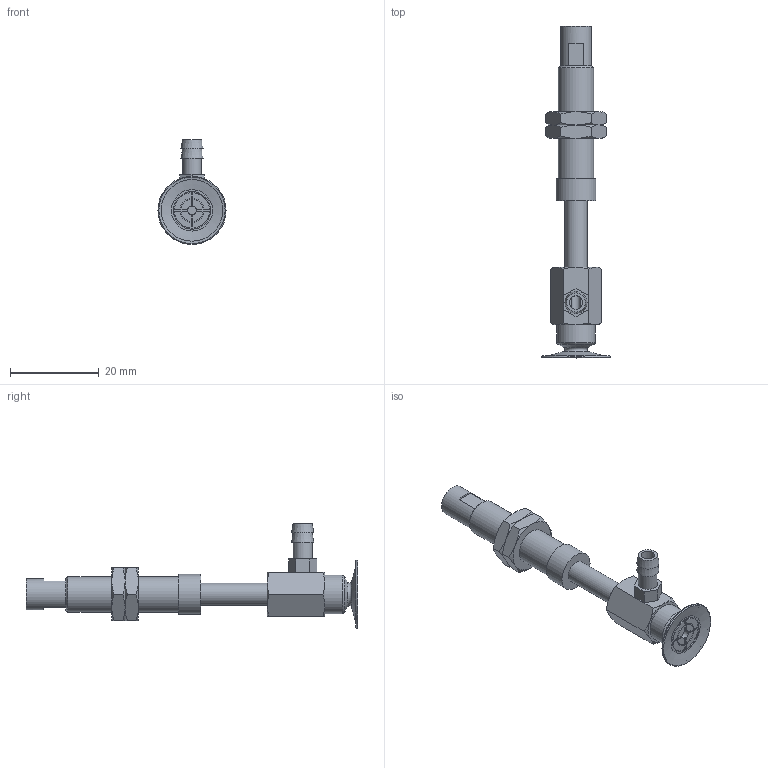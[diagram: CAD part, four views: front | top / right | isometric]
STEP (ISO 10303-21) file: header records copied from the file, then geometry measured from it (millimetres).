
FILE_DESCRIPTION(('STEP AP203'),'1');
FILE_NAME('-T.stp','2025-02-14T07:02:44',(' '),(' '),'Spatial InterOp 3D',' ',' ');
FILE_SCHEMA(('CONFIG_CONTROL_DESIGN'));
Length unit declared in the file: millimetre
Products named in the file (7): BNABPAYS-15B-15-※-T; NAPAYS-10A-15--M; NAPAYS-10A-15--F; Nut-10A-S; CONNECTOR-10A-15-PA; BPAG-15B-※_3D; T
Assembly tree (7 placements, depth 2):
  BNABPAYS-15B-15-※-T
    NAPAYS-10A-15--M
    NAPAYS-10A-15--F
    Nut-10A-S  x2
    CONNECTOR-10A-15-PA
    BPAG-15B-※_3D
    T
Bounding box: 15.4 x 75 x 23.7 mm (x, y, z)
Volume: 4133.8 mm3; surface area: 5431.1 mm2
Topology: 7 solids, 7 shells, 189 faces, 416 edges, 254 vertices
Faces by surface type: plane 83, cone 63, cylinder 33, torus 10
Full cylindrical faces by diameter (mm): 2 x2, 3 x1, 4 x2, 4.134 x2, 4.3 x1, 5 x4, 6 x2, 7 x1, 7.188 x2, 8 x1, 8.5 x1, 8.7 x1, 9 x1
Entity records: 4874 total; most frequent: CARTESIAN_POINT 1127, DIRECTION 714, ORIENTED_EDGE 622, EDGE_CURVE 311, AXIS2_PLACEMENT_3D 298, EDGE_LOOP 236, VERTEX_POINT 215, FACE_OUTER_BOUND 196
